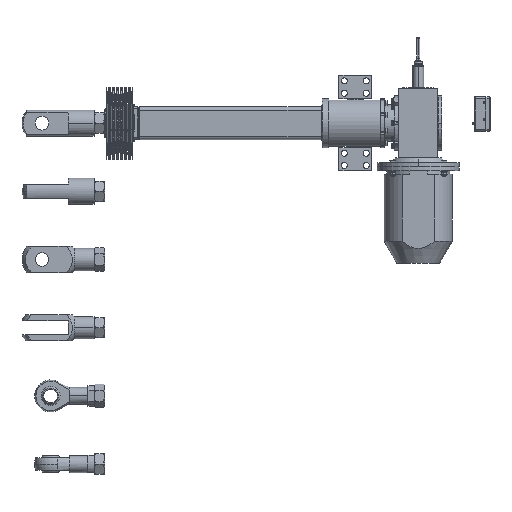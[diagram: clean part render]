
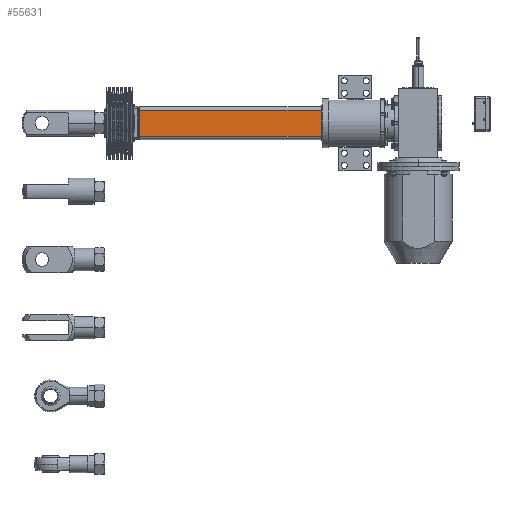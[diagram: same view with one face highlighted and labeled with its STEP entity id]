
A CAD part, front view. The second image highlights one B-rep face of the part: STEP entity #55631.
In plain terms, the highlighted planar face has unit normal (0, -1, 0).
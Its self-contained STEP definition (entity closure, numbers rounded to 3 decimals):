
#24729 = EDGE_LOOP ( 'NONE', ( #41993, #41994, #41995, #41996 ) ) ;
#36998 = FACE_OUTER_BOUND ( 'NONE', #24729, .T. ) ;
#37998 = CARTESIAN_POINT ( 'NONE',  ( 680., -60., 48. ) ) ;
#38000 = CARTESIAN_POINT ( 'NONE',  ( 680., -60., -48. ) ) ;
#38012 = CARTESIAN_POINT ( 'NONE',  ( 2., -60., -48. ) ) ;
#38031 = CARTESIAN_POINT ( 'NONE',  ( 2., -60., 48. ) ) ;
#39707 = AXIS2_PLACEMENT_3D ( 'NONE', #54516, #54525, #54526 ) ;
#40799 = CARTESIAN_POINT ( 'NONE',  ( 680., -60., 48. ) ) ;
#40800 = DIRECTION ( 'NONE',  ( 0., 0., -1. ) ) ;
#40882 = DIRECTION ( 'NONE',  ( -1., 0., 0. ) ) ;
#40887 = CARTESIAN_POINT ( 'NONE',  ( 680., -60., 48. ) ) ;
#40889 = CARTESIAN_POINT ( 'NONE',  ( 2., -60., 48. ) ) ;
#40894 = DIRECTION ( 'NONE',  ( 0., 0., -1. ) ) ;
#40895 = CARTESIAN_POINT ( 'NONE',  ( 680., -60., -48. ) ) ;
#40897 = DIRECTION ( 'NONE',  ( -1., 0., 0. ) ) ;
#41993 = ORIENTED_EDGE ( 'NONE', *, *, #43697, .T. ) ;
#41994 = ORIENTED_EDGE ( 'NONE', *, *, #43699, .T. ) ;
#41995 = ORIENTED_EDGE ( 'NONE', *, *, #43702, .F. ) ;
#41996 = ORIENTED_EDGE ( 'NONE', *, *, #43629, .F. ) ;
#43629 = EDGE_CURVE ( 'NONE', #49307, #49313, #49606, .T. ) ;
#43697 = EDGE_CURVE ( 'NONE', #49307, #49402, #49747, .T. ) ;
#43699 = EDGE_CURVE ( 'NONE', #49402, #49349, #49743, .T. ) ;
#43702 = EDGE_CURVE ( 'NONE', #49313, #49349, #49756, .T. ) ;
#49307 = VERTEX_POINT ( 'NONE', #37998 ) ;
#49313 = VERTEX_POINT ( 'NONE', #38000 ) ;
#49349 = VERTEX_POINT ( 'NONE', #38012 ) ;
#49402 = VERTEX_POINT ( 'NONE', #38031 ) ;
#49606 = LINE ( 'NONE', #40799, #49611 ) ;
#49611 = VECTOR ( 'NONE', #40800, 1000. ) ;
#49743 = LINE ( 'NONE', #40889, #49759 ) ;
#49747 = LINE ( 'NONE', #40887, #49753 ) ;
#49753 = VECTOR ( 'NONE', #40882, 1000. ) ;
#49756 = LINE ( 'NONE', #40895, #49763 ) ;
#49759 = VECTOR ( 'NONE', #40894, 1000. ) ;
#49763 = VECTOR ( 'NONE', #40897, 1000. ) ;
#54516 = CARTESIAN_POINT ( 'NONE',  ( 680., -60., 48. ) ) ;
#54522 = PLANE ( 'NONE',  #39707 ) ;
#54525 = DIRECTION ( 'NONE',  ( 0., 1., 0. ) ) ;
#54526 = DIRECTION ( 'NONE',  ( 0., 0., 1. ) ) ;
#55631 = ADVANCED_FACE ( 'NONE', ( #36998 ), #54522, .F. ) ;
